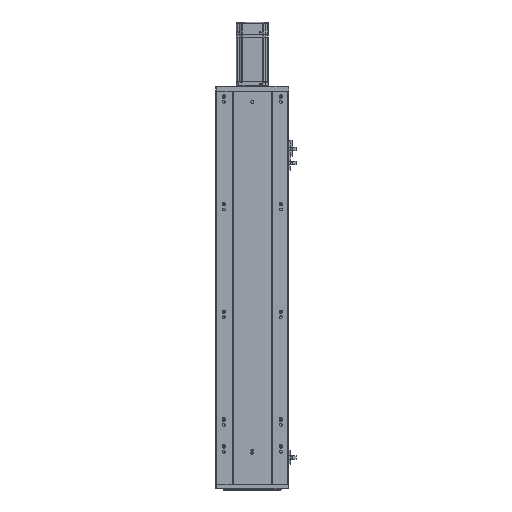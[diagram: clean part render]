
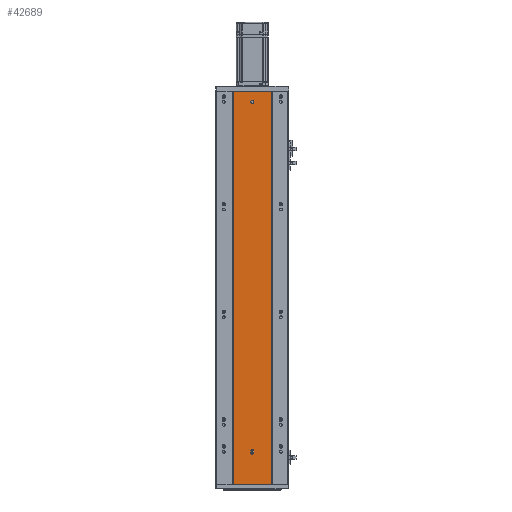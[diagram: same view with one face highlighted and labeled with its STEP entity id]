
A CAD part, front view. The second image highlights one B-rep face of the part: STEP entity #42689.
In plain terms, the highlighted planar face has unit normal (0, -1, 0).
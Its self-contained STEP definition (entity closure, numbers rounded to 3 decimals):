
#54 = ORIENTED_EDGE ( 'NONE', *, *, #28600, .T. ) ;
#1490 = CIRCLE ( 'NONE', #42884, 3. ) ;
#1860 = LINE ( 'NONE', #47631, #36244 ) ;
#2289 = VERTEX_POINT ( 'NONE', #22098 ) ;
#2893 = LINE ( 'NONE', #15890, #46209 ) ;
#3750 = ORIENTED_EDGE ( 'NONE', *, *, #31112, .F. ) ;
#3785 = DIRECTION ( 'NONE',  ( -1., 0., 0. ) ) ;
#4109 = CIRCLE ( 'NONE', #10207, 3. ) ;
#4759 = AXIS2_PLACEMENT_3D ( 'NONE', #11982, #58510, #37783 ) ;
#5594 = CARTESIAN_POINT ( 'NONE',  ( 134.505, 78.746, 711. ) ) ;
#5650 = DIRECTION ( 'NONE',  ( 0., 0., -1. ) ) ;
#6015 = DIRECTION ( 'NONE',  ( 0., 0., 1. ) ) ;
#6281 = DIRECTION ( 'NONE',  ( -1., 0., 0. ) ) ;
#7336 = VERTEX_POINT ( 'NONE', #7781 ) ;
#7439 = VERTEX_POINT ( 'NONE', #19208 ) ;
#7781 = CARTESIAN_POINT ( 'NONE',  ( 137.505, 78.746, 59.5 ) ) ;
#7846 = ORIENTED_EDGE ( 'NONE', *, *, #63088, .F. ) ;
#8101 = DIRECTION ( 'NONE',  ( 1., 0., 0. ) ) ;
#8326 = DIRECTION ( 'NONE',  ( 0., -1., 0. ) ) ;
#8392 = CARTESIAN_POINT ( 'NONE',  ( 0., 78.746, 0. ) ) ;
#10207 = AXIS2_PLACEMENT_3D ( 'NONE', #5594, #10878, #47152 ) ;
#10617 = VECTOR ( 'NONE', #6281, 1000. ) ;
#10878 = DIRECTION ( 'NONE',  ( 0., -1., 0. ) ) ;
#11982 = CARTESIAN_POINT ( 'NONE',  ( 134.505, 78.746, 59.5 ) ) ;
#12894 = ORIENTED_EDGE ( 'NONE', *, *, #37251, .F. ) ;
#14234 = EDGE_CURVE ( 'NONE', #7336, #2289, #2893, .T. ) ;
#14518 = FACE_BOUND ( 'NONE', #18032, .T. ) ;
#15506 = ORIENTED_EDGE ( 'NONE', *, *, #36380, .F. ) ;
#15890 = CARTESIAN_POINT ( 'NONE',  ( 137.505, 78.746, 62.5 ) ) ;
#16000 = CARTESIAN_POINT ( 'NONE',  ( 134.505, 78.746, 714. ) ) ;
#16743 = VERTEX_POINT ( 'NONE', #16000 ) ;
#16858 = CIRCLE ( 'NONE', #41669, 3. ) ;
#17292 = ORIENTED_EDGE ( 'NONE', *, *, #38575, .F. ) ;
#17838 = CARTESIAN_POINT ( 'NONE',  ( 99.005, 78.746, 731. ) ) ;
#18032 = EDGE_LOOP ( 'NONE', ( #12894, #19044, #15506, #17292 ) ) ;
#19044 = ORIENTED_EDGE ( 'NONE', *, *, #14234, .F. ) ;
#19208 = CARTESIAN_POINT ( 'NONE',  ( 131.505, 78.746, 62.5 ) ) ;
#20045 = EDGE_CURVE ( 'NONE', #16743, #30982, #4109, .T. ) ;
#20219 = CARTESIAN_POINT ( 'NONE',  ( 134.505, 78.746, 711. ) ) ;
#20360 = CIRCLE ( 'NONE', #4759, 3. ) ;
#21511 = VERTEX_POINT ( 'NONE', #31091 ) ;
#21725 = AXIS2_PLACEMENT_3D ( 'NONE', #59653, #8326, #8101 ) ;
#22098 = CARTESIAN_POINT ( 'NONE',  ( 137.505, 78.746, 62.5 ) ) ;
#25249 = EDGE_LOOP ( 'NONE', ( #39320, #63865 ) ) ;
#25940 = DIRECTION ( 'NONE',  ( 0., -1., 0. ) ) ;
#26009 = FACE_OUTER_BOUND ( 'NONE', #37875, .T. ) ;
#26091 = CARTESIAN_POINT ( 'NONE',  ( 134.505, 78.746, 62.5 ) ) ;
#27013 = EDGE_CURVE ( 'NONE', #66622, #61759, #62311, .T. ) ;
#28311 = VECTOR ( 'NONE', #3785, 1000. ) ;
#28600 = EDGE_CURVE ( 'NONE', #28734, #66622, #53847, .T. ) ;
#28734 = VERTEX_POINT ( 'NONE', #55304 ) ;
#30569 = EDGE_CURVE ( 'NONE', #30982, #16743, #16858, .T. ) ;
#30982 = VERTEX_POINT ( 'NONE', #43747 ) ;
#31091 = CARTESIAN_POINT ( 'NONE',  ( 131.505, 78.746, 59.5 ) ) ;
#31112 = EDGE_CURVE ( 'NONE', #36783, #61759, #33978, .T. ) ;
#33978 = LINE ( 'NONE', #8392, #28311 ) ;
#36244 = VECTOR ( 'NONE', #5650, 1000. ) ;
#36380 = EDGE_CURVE ( 'NONE', #21511, #7336, #20360, .T. ) ;
#36783 = VERTEX_POINT ( 'NONE', #40939 ) ;
#37251 = EDGE_CURVE ( 'NONE', #2289, #7439, #1490, .T. ) ;
#37783 = DIRECTION ( 'NONE',  ( 1., 0., 0. ) ) ;
#37875 = EDGE_LOOP ( 'NONE', ( #3750, #7846, #54, #58934 ) ) ;
#38575 = EDGE_CURVE ( 'NONE', #7439, #21511, #60122, .T. ) ;
#39320 = ORIENTED_EDGE ( 'NONE', *, *, #30569, .F. ) ;
#39401 = PLANE ( 'NONE',  #21725 ) ;
#40939 = CARTESIAN_POINT ( 'NONE',  ( 170.005, 78.746, 0. ) ) ;
#41669 = AXIS2_PLACEMENT_3D ( 'NONE', #20219, #25940, #57355 ) ;
#42689 = ADVANCED_FACE ( 'NONE', ( #14518, #65900, #26009 ), #39401, .T. ) ;
#42884 = AXIS2_PLACEMENT_3D ( 'NONE', #26091, #46544, #51564 ) ;
#43117 = CARTESIAN_POINT ( 'NONE',  ( 99.005, 78.746, 731. ) ) ;
#43747 = CARTESIAN_POINT ( 'NONE',  ( 134.505, 78.746, 708. ) ) ;
#46209 = VECTOR ( 'NONE', #6015, 1000. ) ;
#46544 = DIRECTION ( 'NONE',  ( 0., -1., 0. ) ) ;
#47152 = DIRECTION ( 'NONE',  ( 1., 0., 0. ) ) ;
#47631 = CARTESIAN_POINT ( 'NONE',  ( 170.005, 78.746, 731. ) ) ;
#48671 = VECTOR ( 'NONE', #62315, 1000. ) ;
#51564 = DIRECTION ( 'NONE',  ( 1., 0., 0. ) ) ;
#53847 = LINE ( 'NONE', #63534, #10617 ) ;
#55304 = CARTESIAN_POINT ( 'NONE',  ( 170.005, 78.746, 731. ) ) ;
#55308 = CARTESIAN_POINT ( 'NONE',  ( 99.005, 78.746, 0. ) ) ;
#57355 = DIRECTION ( 'NONE',  ( 1., 0., 0. ) ) ;
#57447 = VECTOR ( 'NONE', #64060, 1000. ) ;
#58510 = DIRECTION ( 'NONE',  ( 0., -1., 0. ) ) ;
#58934 = ORIENTED_EDGE ( 'NONE', *, *, #27013, .T. ) ;
#59653 = CARTESIAN_POINT ( 'NONE',  ( 0., 78.746, 731. ) ) ;
#60122 = LINE ( 'NONE', #67402, #48671 ) ;
#61759 = VERTEX_POINT ( 'NONE', #55308 ) ;
#62311 = LINE ( 'NONE', #43117, #57447 ) ;
#62315 = DIRECTION ( 'NONE',  ( 0., 0., -1. ) ) ;
#63088 = EDGE_CURVE ( 'NONE', #28734, #36783, #1860, .T. ) ;
#63534 = CARTESIAN_POINT ( 'NONE',  ( 0., 78.746, 731. ) ) ;
#63865 = ORIENTED_EDGE ( 'NONE', *, *, #20045, .F. ) ;
#64060 = DIRECTION ( 'NONE',  ( 0., 0., -1. ) ) ;
#65900 = FACE_BOUND ( 'NONE', #25249, .T. ) ;
#66622 = VERTEX_POINT ( 'NONE', #17838 ) ;
#67402 = CARTESIAN_POINT ( 'NONE',  ( 131.505, 78.746, 62.5 ) ) ;
